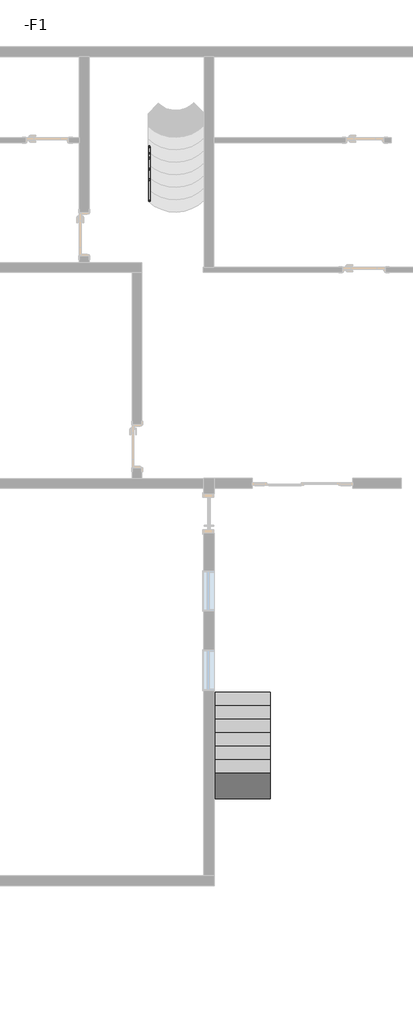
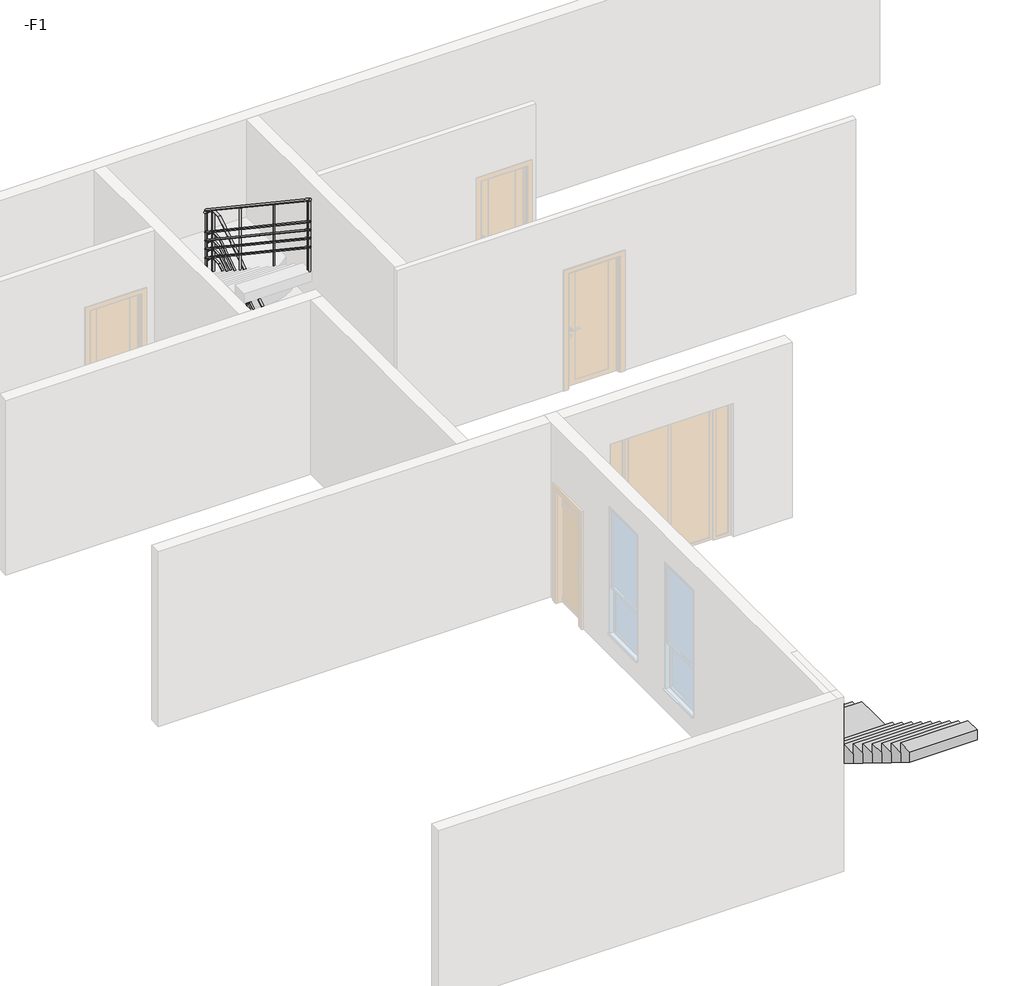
# One storey, part 2 of 3: 1 railing, 1 stair flight.
"""IFC4 building model written with IfcOpenShell, lengths in millimetres."""

from ifc_helpers import new_model, si_unit, point, frame, frame_2d, origin, place, context, project, spatial, circle_curve, ellipse_curve, trimmed, segment, composite_curve, outline, extrude, faceted_brep, element, save
from ifc_brep_helpers import plane_surface, cylinder_surface, advanced_brep

model = new_model("IFC4")

# Units and contexts
model_context = context("Model", 3, world=origin())
ifc_project = project(units=[si_unit("LENGTHUNIT", "METRE", prefix="MILLI")], contexts=[model_context])

# Site, building, storey
site = spatial("IfcSite", under=ifc_project)
building = spatial("IfcBuilding", under=site)
storey = spatial("IfcBuildingStorey", under=building, Name="-F1", Elevation=-3300.0)

# Railing
placement = place(None, origin())
element("IfcRailing", 1, ObjectType="900mm 圆管", at=placement, inside=storey, context=model_context, shape_type="SolidModel", body=[
    advanced_brep(
    [(-11180.5782681, -2651.0286905, -2000.3677801), (-11220.5782681, -2651.0286905, -2000.3677801), (-11180.5782681, -824.9629832, -780.5263158), (-11220.5782681, -824.9629832, -780.5263158), (-11180.5782681, -605.6286905, -780.5263158), (-11220.5782681, -645.6286905, -780.5263158), (-11339.1184451, -605.6286905, -780.5263158), (-11305.857165, -645.6286905, -780.5263158)],
    [
        (0, 1, ellipse_curve(frame((-11200.5782681, -2651.0286905, -2000.3677801), z_axis=(0.0, -1.0, 0.0), x_axis=(0.0, 0.0, -1.0)), 24.0519907, 20.0)),
        (1, 0, ellipse_curve(frame((-11200.5782681, -2651.0286905, -2000.3677801), z_axis=(0.0, -1.0, 0.0), x_axis=(0.0, 0.0, -1.0)), 24.0519907, 20.0)),
        (0, 2),
        (2, 3, ellipse_curve(frame((-11200.5782681, -824.9629832, -780.5263158), z_axis=(0.0, -0.9569566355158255, -0.29023093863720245), x_axis=(0.0, 0.29023093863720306, -0.9569566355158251)), 20.8995886, 20.0)),
        (3, 1),
        (3, 2, ellipse_curve(frame((-11200.5782681, -824.9629832, -780.5263158), z_axis=(0.0, -0.9569566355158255, -0.29023093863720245), x_axis=(0.0, 0.29023093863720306, -0.9569566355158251)), 20.8995886, 20.0)),
        (2, 4),
        (4, 5, ellipse_curve(frame((-11200.5782681, -625.6286905, -780.5263158), z_axis=(0.7071067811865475, -0.7071067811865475, 0.0), x_axis=(-0.7071067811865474, -0.7071067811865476, 0.0)), 28.2842712, 20.0)),
        (5, 3),
        (5, 4, ellipse_curve(frame((-11200.5782681, -625.6286905, -780.5263158), z_axis=(0.7071067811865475, -0.7071067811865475, 0.0), x_axis=(-0.7071067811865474, -0.7071067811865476, 0.0)), 28.2842712, 20.0)),
        (6, 7, ellipse_curve(frame((-11322.487805, -625.6286905, -780.5263158), z_axis=(-0.7071067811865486, -0.5879819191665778, 0.3927814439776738), x_axis=(0.7071067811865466, -0.5879819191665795, 0.3927814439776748)), 28.2842712, 20.0)),
        (7, 6, ellipse_curve(frame((-11322.487805, -625.6286905, -780.5263158), z_axis=(-0.7071067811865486, -0.5879819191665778, 0.3927814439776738), x_axis=(0.7071067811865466, -0.5879819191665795, 0.3927814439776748)), 28.2842712, 20.0)),
        (4, 6),
        (7, 5),
    ],
    [
        plane_surface(frame((-11200.5782681, -2651.0286905, -1976.3157895), z_axis=(0.0, -1.0, 0.0), x_axis=(0.0, 0.0, 1.0))),
        cylinder_surface(frame((-11200.5782681, -2639.9191536, -1992.9464296), z_axis=(0.0, -0.831532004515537, -0.5554768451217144), x_axis=(-1.0, 0.0, 0.0)), 20.0),
        cylinder_surface(frame((-11200.5782681, -831.0286905, -780.5263158), z_axis=(0.0, -1.0, 0.0), x_axis=(-1.0, 0.0, 0.0)), 20.0),
        plane_surface(frame((-11311.3782681, -625.6286905, -760.5263158), z_axis=(-0.7071067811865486, -0.5879819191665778, 0.3927814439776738), x_axis=(0.7071067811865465, -0.5879819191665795, 0.392781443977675))),
        cylinder_surface(frame((-11200.5782681, -625.6286905, -780.5263158), z_axis=(1.0, 0.0, 0.0), x_axis=(0.0, -1.0, 0.0)), 20.0),
    ],
    [
        (0, [[1, 2]]),
        (1, [[-1, 3, 4, 5]]),
        (1, [[-2, -5, 6, -3]]),
        (2, [[-4, 7, 8, 9]]),
        (2, [[-6, -9, 10, -7]]),
        (3, [[11, 12]]),
        (4, [[-8, 13, -12, 14]]),
        (4, [[-10, -14, -11, -13]]),
    ],
),
    advanced_brep(
    [(-11331.3782681, -620.1075873, -751.7928086), (-11291.3782681, -653.3688674, -729.5737348), (-11331.3782681, -3691.0286905, 1299.6322199), (-11291.3782681, -3691.0286905, 1299.6322199)],
    [
        (0, 1, ellipse_curve(frame((-11311.3782681, -636.7382274, -740.6832717), z_axis=(0.7071067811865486, 0.5879819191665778, -0.3927814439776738), x_axis=(-0.7071067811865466, 0.5879819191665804, -0.3927814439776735)), 28.2842712, 20.0)),
        (1, 0, ellipse_curve(frame((-11311.3782681, -636.7382274, -740.6832717), z_axis=(0.7071067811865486, 0.5879819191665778, -0.3927814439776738), x_axis=(-0.7071067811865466, 0.5879819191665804, -0.3927814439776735)), 28.2842712, 20.0)),
        (2, 3, ellipse_curve(frame((-11311.3782681, -3691.0286905, 1299.6322199), z_axis=(0.0, -1.0, 0.0), x_axis=(0.0, 0.0, -1.0)), 24.0519907, 20.0)),
        (3, 2, ellipse_curve(frame((-11311.3782681, -3691.0286905, 1299.6322199), z_axis=(0.0, -1.0, 0.0), x_axis=(0.0, 0.0, -1.0)), 24.0519907, 20.0)),
        (0, 2),
        (3, 1),
    ],
    [
        plane_surface(frame((-11311.3782681, -625.6286905, -724.0526316), z_axis=(0.7071067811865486, 0.5879819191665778, -0.3927814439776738), x_axis=(0.7071067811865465, -0.5879819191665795, 0.392781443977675))),
        plane_surface(frame((-11311.3782681, -3691.0286905, 1323.6842105), z_axis=(0.0, -1.0, 0.0), x_axis=(0.0, 0.0, -1.0))),
        cylinder_surface(frame((-11311.3782681, -636.7382274, -740.6832717), z_axis=(0.0, 0.8315320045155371, -0.5554768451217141), x_axis=(1.0, 0.0, 0.0)), 20.0),
    ],
    [
        (0, [[1, 2]]),
        (1, [[3, 4]]),
        (2, [[-1, 5, -4, 6]]),
        (2, [[-2, -6, -3, -5]]),
    ],
),
    advanced_brep(
    [(-11185.5782681, -2651.0286905, -2394.3547825), (-11215.5782681, -2651.0286905, -2394.3547825), (-11185.5782681, -826.47941, -1175.5263158), (-11215.5782681, -826.47941, -1175.5263158), (-11185.5782681, -640.6286905, -1175.5263158), (-11215.5782681, -640.6286905, -1175.5263158)],
    [
        (0, 1, ellipse_curve(frame((-11200.5782681, -2651.0286905, -2394.3547825), z_axis=(0.0, -1.0, 0.0), x_axis=(0.0, 0.0, -1.0)), 18.038993, 15.0)),
        (1, 0, ellipse_curve(frame((-11200.5782681, -2651.0286905, -2394.3547825), z_axis=(0.0, -1.0, 0.0), x_axis=(0.0, 0.0, -1.0)), 18.038993, 15.0)),
        (0, 2),
        (2, 3, ellipse_curve(frame((-11200.5782681, -826.47941, -1175.5263158), z_axis=(0.0, -0.9569566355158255, -0.29023093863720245), x_axis=(0.0, 0.29023093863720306, -0.9569566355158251)), 15.6746915, 15.0)),
        (3, 1),
        (3, 2, ellipse_curve(frame((-11200.5782681, -826.47941, -1175.5263158), z_axis=(0.0, -0.9569566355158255, -0.29023093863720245), x_axis=(0.0, 0.29023093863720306, -0.9569566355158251)), 15.6746915, 15.0)),
        (4, 5, circle_curve(frame((-11200.5782681, -640.6286905, -1175.5263158), z_axis=(0.0, 1.0, 0.0), x_axis=(-1.0, 0.0, 0.0)), 15.0)),
        (5, 4, circle_curve(frame((-11200.5782681, -640.6286905, -1175.5263158), z_axis=(0.0, 1.0, 0.0), x_axis=(-1.0, 0.0, 0.0)), 15.0)),
        (2, 4),
        (5, 3),
    ],
    [
        plane_surface(frame((-11200.5782681, -2651.0286905, -2376.3157895), z_axis=(0.0, -1.0, 0.0), x_axis=(0.0, 0.0, 1.0))),
        cylinder_surface(frame((-11200.5782681, -2642.6965378, -2388.7887695), z_axis=(0.0, -0.831532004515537, -0.5554768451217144), x_axis=(-1.0, 0.0, 0.0)), 15.0),
        plane_surface(frame((-11200.5782681, -640.6286905, -1160.5263158), z_axis=(0.0, 1.0, 0.0), x_axis=(0.0, 0.0, 1.0))),
        cylinder_surface(frame((-11200.5782681, -831.0286905, -1175.5263158), z_axis=(0.0, -1.0, 0.0), x_axis=(-1.0, 0.0, 0.0)), 15.0),
    ],
    [
        (0, [[1, 2]]),
        (1, [[-1, 3, 4, 5]]),
        (1, [[-2, -5, 6, -3]]),
        (2, [[7, 8]]),
        (3, [[-4, 9, -8, 10]]),
        (3, [[-6, -10, -7, -9]]),
    ],
),
    advanced_brep(
    [(-11185.5782681, -610.6286905, -1175.5263158), (-11185.5782681, -640.6286905, -1175.5263158), (-11296.3782681, -610.6286905, -1175.5263158), (-11296.3782681, -640.6286905, -1175.5263158)],
    [
        (0, 1, circle_curve(frame((-11185.5782681, -625.6286905, -1175.5263158), z_axis=(1.0, 0.0, 0.0), x_axis=(0.0, -1.0, 0.0)), 15.0)),
        (1, 0, circle_curve(frame((-11185.5782681, -625.6286905, -1175.5263158), z_axis=(1.0, 0.0, 0.0), x_axis=(0.0, -1.0, 0.0)), 15.0)),
        (2, 3, circle_curve(frame((-11296.3782681, -625.6286905, -1175.5263158), z_axis=(-1.0, 0.0, 0.0), x_axis=(0.0, -1.0, 0.0)), 15.0)),
        (3, 2, circle_curve(frame((-11296.3782681, -625.6286905, -1175.5263158), z_axis=(-1.0, 0.0, 0.0), x_axis=(0.0, -1.0, 0.0)), 15.0)),
        (0, 2),
        (3, 1),
    ],
    [
        plane_surface(frame((-11185.5782681, -625.6286905, -1160.5263158), z_axis=(1.0, 0.0, 0.0), x_axis=(0.0, -1.0, 0.0))),
        plane_surface(frame((-11296.3782681, -625.6286905, -1160.5263158), z_axis=(-1.0, 0.0, 0.0), x_axis=(0.0, -1.0, 0.0))),
        cylinder_surface(frame((-11185.5782681, -625.6286905, -1175.5263158), z_axis=(1.0, 0.0, 0.0), x_axis=(0.0, -1.0, 0.0)), 15.0),
    ],
    [
        (0, [[1, 2]]),
        (1, [[3, 4]]),
        (2, [[-1, 5, -4, 6]]),
        (2, [[-2, -6, -3, -5]]),
    ],
),
    advanced_brep(
    [(-11326.3782681, -610.6286905, -1152.1118675), (-11296.3782681, -610.6286905, -1152.1118675), (-11326.3782681, -3691.0286905, 905.6452175), (-11296.3782681, -3691.0286905, 905.6452175)],
    [
        (0, 1, ellipse_curve(frame((-11311.3782681, -610.6286905, -1152.1118675), z_axis=(0.0, 1.0, 0.0), x_axis=(0.0, 0.0, -1.0)), 18.038993, 15.0)),
        (1, 0, ellipse_curve(frame((-11311.3782681, -610.6286905, -1152.1118675), z_axis=(0.0, 1.0, 0.0), x_axis=(0.0, 0.0, -1.0)), 18.038993, 15.0)),
        (2, 3, ellipse_curve(frame((-11311.3782681, -3691.0286905, 905.6452175), z_axis=(0.0, -1.0, 0.0), x_axis=(0.0, 0.0, -1.0)), 18.038993, 15.0)),
        (3, 2, ellipse_curve(frame((-11311.3782681, -3691.0286905, 905.6452175), z_axis=(0.0, -1.0, 0.0), x_axis=(0.0, 0.0, -1.0)), 18.038993, 15.0)),
        (0, 2),
        (3, 1),
    ],
    [
        plane_surface(frame((-11311.3782681, -610.6286905, -1134.0728745), z_axis=(0.0, 1.0, 0.0), x_axis=(0.0, 0.0, -1.0))),
        plane_surface(frame((-11311.3782681, -3691.0286905, 923.6842105), z_axis=(0.0, -1.0, 0.0), x_axis=(0.0, 0.0, -1.0))),
        cylinder_surface(frame((-11311.3782681, -618.9608431, -1146.5458546), z_axis=(0.0, 0.8315320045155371, -0.5554768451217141), x_axis=(1.0, 0.0, 0.0)), 15.0),
    ],
    [
        (0, [[1, 2]]),
        (1, [[3, 4]]),
        (2, [[-1, 5, -4, 6]]),
        (2, [[-2, -6, -3, -5]]),
    ],
),
    advanced_brep(
    [(-11185.5782681, -2651.0286905, -2544.3547825), (-11215.5782681, -2651.0286905, -2544.3547825), (-11185.5782681, -826.47941, -1325.5263158), (-11215.5782681, -826.47941, -1325.5263158), (-11185.5782681, -640.6286905, -1325.5263158), (-11215.5782681, -640.6286905, -1325.5263158)],
    [
        (0, 1, ellipse_curve(frame((-11200.5782681, -2651.0286905, -2544.3547825), z_axis=(0.0, -1.0, 0.0), x_axis=(0.0, 0.0, -1.0)), 18.038993, 15.0)),
        (1, 0, ellipse_curve(frame((-11200.5782681, -2651.0286905, -2544.3547825), z_axis=(0.0, -1.0, 0.0), x_axis=(0.0, 0.0, -1.0)), 18.038993, 15.0)),
        (0, 2),
        (2, 3, ellipse_curve(frame((-11200.5782681, -826.47941, -1325.5263158), z_axis=(0.0, -0.9569566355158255, -0.29023093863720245), x_axis=(0.0, 0.29023093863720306, -0.9569566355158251)), 15.6746915, 15.0)),
        (3, 1),
        (3, 2, ellipse_curve(frame((-11200.5782681, -826.47941, -1325.5263158), z_axis=(0.0, -0.9569566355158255, -0.29023093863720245), x_axis=(0.0, 0.29023093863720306, -0.9569566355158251)), 15.6746915, 15.0)),
        (4, 5, circle_curve(frame((-11200.5782681, -640.6286905, -1325.5263158), z_axis=(0.0, 1.0, 0.0), x_axis=(-1.0, 0.0, 0.0)), 15.0)),
        (5, 4, circle_curve(frame((-11200.5782681, -640.6286905, -1325.5263158), z_axis=(0.0, 1.0, 0.0), x_axis=(-1.0, 0.0, 0.0)), 15.0)),
        (2, 4),
        (5, 3),
    ],
    [
        plane_surface(frame((-11200.5782681, -2651.0286905, -2526.3157895), z_axis=(0.0, -1.0, 0.0), x_axis=(0.0, 0.0, 1.0))),
        cylinder_surface(frame((-11200.5782681, -2642.6965378, -2538.7887695), z_axis=(0.0, -0.831532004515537, -0.5554768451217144), x_axis=(-1.0, 0.0, 0.0)), 15.0),
        plane_surface(frame((-11200.5782681, -640.6286905, -1310.5263158), z_axis=(0.0, 1.0, 0.0), x_axis=(0.0, 0.0, 1.0))),
        cylinder_surface(frame((-11200.5782681, -831.0286905, -1325.5263158), z_axis=(0.0, -1.0, 0.0), x_axis=(-1.0, 0.0, 0.0)), 15.0),
    ],
    [
        (0, [[1, 2]]),
        (1, [[-1, 3, 4, 5]]),
        (1, [[-2, -5, 6, -3]]),
        (2, [[7, 8]]),
        (3, [[-4, 9, -8, 10]]),
        (3, [[-6, -10, -7, -9]]),
    ],
),
    advanced_brep(
    [(-11185.5782681, -610.6286905, -1325.5263158), (-11185.5782681, -640.6286905, -1325.5263158), (-11296.3782681, -610.6286905, -1325.5263158), (-11296.3782681, -640.6286905, -1325.5263158)],
    [
        (0, 1, circle_curve(frame((-11185.5782681, -625.6286905, -1325.5263158), z_axis=(1.0, 0.0, 0.0), x_axis=(0.0, -1.0, 0.0)), 15.0)),
        (1, 0, circle_curve(frame((-11185.5782681, -625.6286905, -1325.5263158), z_axis=(1.0, 0.0, 0.0), x_axis=(0.0, -1.0, 0.0)), 15.0)),
        (2, 3, circle_curve(frame((-11296.3782681, -625.6286905, -1325.5263158), z_axis=(-1.0, 0.0, 0.0), x_axis=(0.0, -1.0, 0.0)), 15.0)),
        (3, 2, circle_curve(frame((-11296.3782681, -625.6286905, -1325.5263158), z_axis=(-1.0, 0.0, 0.0), x_axis=(0.0, -1.0, 0.0)), 15.0)),
        (0, 2),
        (3, 1),
    ],
    [
        plane_surface(frame((-11185.5782681, -625.6286905, -1310.5263158), z_axis=(1.0, 0.0, 0.0), x_axis=(0.0, -1.0, 0.0))),
        plane_surface(frame((-11296.3782681, -625.6286905, -1310.5263158), z_axis=(-1.0, 0.0, 0.0), x_axis=(0.0, -1.0, 0.0))),
        cylinder_surface(frame((-11185.5782681, -625.6286905, -1325.5263158), z_axis=(1.0, 0.0, 0.0), x_axis=(0.0, -1.0, 0.0)), 15.0),
    ],
    [
        (0, [[1, 2]]),
        (1, [[3, 4]]),
        (2, [[-1, 5, -4, 6]]),
        (2, [[-2, -6, -3, -5]]),
    ],
),
    advanced_brep(
    [(-11326.3782681, -610.6286905, -1302.1118675), (-11296.3782681, -610.6286905, -1302.1118675), (-11326.3782681, -3691.0286905, 755.6452175), (-11296.3782681, -3691.0286905, 755.6452175)],
    [
        (0, 1, ellipse_curve(frame((-11311.3782681, -610.6286905, -1302.1118675), z_axis=(0.0, 1.0, 0.0), x_axis=(0.0, 0.0, -1.0)), 18.038993, 15.0)),
        (1, 0, ellipse_curve(frame((-11311.3782681, -610.6286905, -1302.1118675), z_axis=(0.0, 1.0, 0.0), x_axis=(0.0, 0.0, -1.0)), 18.038993, 15.0)),
        (2, 3, ellipse_curve(frame((-11311.3782681, -3691.0286905, 755.6452175), z_axis=(0.0, -1.0, 0.0), x_axis=(0.0, 0.0, -1.0)), 18.038993, 15.0)),
        (3, 2, ellipse_curve(frame((-11311.3782681, -3691.0286905, 755.6452175), z_axis=(0.0, -1.0, 0.0), x_axis=(0.0, 0.0, -1.0)), 18.038993, 15.0)),
        (0, 2),
        (3, 1),
    ],
    [
        plane_surface(frame((-11311.3782681, -610.6286905, -1284.0728745), z_axis=(0.0, 1.0, 0.0), x_axis=(0.0, 0.0, -1.0))),
        plane_surface(frame((-11311.3782681, -3691.0286905, 773.6842105), z_axis=(0.0, -1.0, 0.0), x_axis=(0.0, 0.0, -1.0))),
        cylinder_surface(frame((-11311.3782681, -618.9608431, -1296.5458546), z_axis=(0.0, 0.8315320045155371, -0.5554768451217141), x_axis=(1.0, 0.0, 0.0)), 15.0),
    ],
    [
        (0, [[1, 2]]),
        (1, [[3, 4]]),
        (2, [[-1, 5, -4, 6]]),
        (2, [[-2, -6, -3, -5]]),
    ],
),
    advanced_brep(
    [(-11185.5782681, -2651.0286905, -2694.3547825), (-11215.5782681, -2651.0286905, -2694.3547825), (-11185.5782681, -826.47941, -1475.5263158), (-11215.5782681, -826.47941, -1475.5263158), (-11185.5782681, -640.6286905, -1475.5263158), (-11215.5782681, -640.6286905, -1475.5263158)],
    [
        (0, 1, ellipse_curve(frame((-11200.5782681, -2651.0286905, -2694.3547825), z_axis=(0.0, -1.0, 0.0), x_axis=(0.0, 0.0, -1.0)), 18.038993, 15.0)),
        (1, 0, ellipse_curve(frame((-11200.5782681, -2651.0286905, -2694.3547825), z_axis=(0.0, -1.0, 0.0), x_axis=(0.0, 0.0, -1.0)), 18.038993, 15.0)),
        (0, 2),
        (2, 3, ellipse_curve(frame((-11200.5782681, -826.47941, -1475.5263158), z_axis=(0.0, -0.9569566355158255, -0.29023093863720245), x_axis=(0.0, 0.29023093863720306, -0.9569566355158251)), 15.6746915, 15.0)),
        (3, 1),
        (3, 2, ellipse_curve(frame((-11200.5782681, -826.47941, -1475.5263158), z_axis=(0.0, -0.9569566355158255, -0.29023093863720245), x_axis=(0.0, 0.29023093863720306, -0.9569566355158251)), 15.6746915, 15.0)),
        (4, 5, circle_curve(frame((-11200.5782681, -640.6286905, -1475.5263158), z_axis=(0.0, 1.0, 0.0), x_axis=(-1.0, 0.0, 0.0)), 15.0)),
        (5, 4, circle_curve(frame((-11200.5782681, -640.6286905, -1475.5263158), z_axis=(0.0, 1.0, 0.0), x_axis=(-1.0, 0.0, 0.0)), 15.0)),
        (2, 4),
        (5, 3),
    ],
    [
        plane_surface(frame((-11200.5782681, -2651.0286905, -2676.3157895), z_axis=(0.0, -1.0, 0.0), x_axis=(0.0, 0.0, 1.0))),
        cylinder_surface(frame((-11200.5782681, -2642.6965378, -2688.7887695), z_axis=(0.0, -0.831532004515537, -0.5554768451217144), x_axis=(-1.0, 0.0, 0.0)), 15.0),
        plane_surface(frame((-11200.5782681, -640.6286905, -1460.5263158), z_axis=(0.0, 1.0, 0.0), x_axis=(0.0, 0.0, 1.0))),
        cylinder_surface(frame((-11200.5782681, -831.0286905, -1475.5263158), z_axis=(0.0, -1.0, 0.0), x_axis=(-1.0, 0.0, 0.0)), 15.0),
    ],
    [
        (0, [[1, 2]]),
        (1, [[-1, 3, 4, 5]]),
        (1, [[-2, -5, 6, -3]]),
        (2, [[7, 8]]),
        (3, [[-4, 9, -8, 10]]),
        (3, [[-6, -10, -7, -9]]),
    ],
),
    advanced_brep(
    [(-11185.5782681, -610.6286905, -1475.5263158), (-11185.5782681, -640.6286905, -1475.5263158), (-11296.3782681, -610.6286905, -1475.5263158), (-11296.3782681, -640.6286905, -1475.5263158)],
    [
        (0, 1, circle_curve(frame((-11185.5782681, -625.6286905, -1475.5263158), z_axis=(1.0, 0.0, 0.0), x_axis=(0.0, -1.0, 0.0)), 15.0)),
        (1, 0, circle_curve(frame((-11185.5782681, -625.6286905, -1475.5263158), z_axis=(1.0, 0.0, 0.0), x_axis=(0.0, -1.0, 0.0)), 15.0)),
        (2, 3, circle_curve(frame((-11296.3782681, -625.6286905, -1475.5263158), z_axis=(-1.0, 0.0, 0.0), x_axis=(0.0, -1.0, 0.0)), 15.0)),
        (3, 2, circle_curve(frame((-11296.3782681, -625.6286905, -1475.5263158), z_axis=(-1.0, 0.0, 0.0), x_axis=(0.0, -1.0, 0.0)), 15.0)),
        (0, 2),
        (3, 1),
    ],
    [
        plane_surface(frame((-11185.5782681, -625.6286905, -1460.5263158), z_axis=(1.0, 0.0, 0.0), x_axis=(0.0, -1.0, 0.0))),
        plane_surface(frame((-11296.3782681, -625.6286905, -1460.5263158), z_axis=(-1.0, 0.0, 0.0), x_axis=(0.0, -1.0, 0.0))),
        cylinder_surface(frame((-11185.5782681, -625.6286905, -1475.5263158), z_axis=(1.0, 0.0, 0.0), x_axis=(0.0, -1.0, 0.0)), 15.0),
    ],
    [
        (0, [[1, 2]]),
        (1, [[3, 4]]),
        (2, [[-1, 5, -4, 6]]),
        (2, [[-2, -6, -3, -5]]),
    ],
),
    advanced_brep(
    [(-11326.3782681, -610.6286905, -1452.1118675), (-11296.3782681, -610.6286905, -1452.1118675), (-11326.3782681, -3691.0286905, 605.6452175), (-11296.3782681, -3691.0286905, 605.6452175)],
    [
        (0, 1, ellipse_curve(frame((-11311.3782681, -610.6286905, -1452.1118675), z_axis=(0.0, 1.0, 0.0), x_axis=(0.0, 0.0, -1.0)), 18.038993, 15.0)),
        (1, 0, ellipse_curve(frame((-11311.3782681, -610.6286905, -1452.1118675), z_axis=(0.0, 1.0, 0.0), x_axis=(0.0, 0.0, -1.0)), 18.038993, 15.0)),
        (2, 3, ellipse_curve(frame((-11311.3782681, -3691.0286905, 605.6452175), z_axis=(0.0, -1.0, 0.0), x_axis=(0.0, 0.0, -1.0)), 18.038993, 15.0)),
        (3, 2, ellipse_curve(frame((-11311.3782681, -3691.0286905, 605.6452175), z_axis=(0.0, -1.0, 0.0), x_axis=(0.0, 0.0, -1.0)), 18.038993, 15.0)),
        (0, 2),
        (3, 1),
    ],
    [
        plane_surface(frame((-11311.3782681, -610.6286905, -1434.0728745), z_axis=(0.0, 1.0, 0.0), x_axis=(0.0, 0.0, -1.0))),
        plane_surface(frame((-11311.3782681, -3691.0286905, 623.6842105), z_axis=(0.0, -1.0, 0.0), x_axis=(0.0, 0.0, -1.0))),
        cylinder_surface(frame((-11311.3782681, -618.9608431, -1446.5458546), z_axis=(0.0, 0.8315320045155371, -0.5554768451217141), x_axis=(1.0, 0.0, 0.0)), 15.0),
    ],
    [
        (0, [[1, 2]]),
        (1, [[3, 4]]),
        (2, [[-1, 5, -4, 6]]),
        (2, [[-2, -6, -3, -5]]),
    ],
),
    advanced_brep(
    [(-11185.5782681, -2651.0286905, -2856.3547825), (-11215.5782681, -2651.0286905, -2856.3547825), (-11185.5782681, -826.47941, -1637.5263158), (-11215.5782681, -826.47941, -1637.5263158), (-11185.5782681, -640.6286905, -1637.5263158), (-11215.5782681, -640.6286905, -1637.5263158)],
    [
        (0, 1, ellipse_curve(frame((-11200.5782681, -2651.0286905, -2856.3547825), z_axis=(0.0, -1.0, 0.0), x_axis=(0.0, 0.0, -1.0)), 18.038993, 15.0)),
        (1, 0, ellipse_curve(frame((-11200.5782681, -2651.0286905, -2856.3547825), z_axis=(0.0, -1.0, 0.0), x_axis=(0.0, 0.0, -1.0)), 18.038993, 15.0)),
        (0, 2),
        (2, 3, ellipse_curve(frame((-11200.5782681, -826.47941, -1637.5263158), z_axis=(0.0, -0.9569566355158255, -0.29023093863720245), x_axis=(0.0, 0.29023093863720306, -0.9569566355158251)), 15.6746915, 15.0)),
        (3, 1),
        (3, 2, ellipse_curve(frame((-11200.5782681, -826.47941, -1637.5263158), z_axis=(0.0, -0.9569566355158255, -0.29023093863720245), x_axis=(0.0, 0.29023093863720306, -0.9569566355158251)), 15.6746915, 15.0)),
        (4, 5, circle_curve(frame((-11200.5782681, -640.6286905, -1637.5263158), z_axis=(0.0, 1.0, 0.0), x_axis=(-1.0, 0.0, 0.0)), 15.0)),
        (5, 4, circle_curve(frame((-11200.5782681, -640.6286905, -1637.5263158), z_axis=(0.0, 1.0, 0.0), x_axis=(-1.0, 0.0, 0.0)), 15.0)),
        (2, 4),
        (5, 3),
    ],
    [
        plane_surface(frame((-11200.5782681, -2651.0286905, -2838.3157895), z_axis=(0.0, -1.0, 0.0), x_axis=(0.0, 0.0, 1.0))),
        cylinder_surface(frame((-11200.5782681, -2642.6965378, -2850.7887695), z_axis=(0.0, -0.831532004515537, -0.5554768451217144), x_axis=(-1.0, 0.0, 0.0)), 15.0),
        plane_surface(frame((-11200.5782681, -640.6286905, -1622.5263158), z_axis=(0.0, 1.0, 0.0), x_axis=(0.0, 0.0, 1.0))),
        cylinder_surface(frame((-11200.5782681, -831.0286905, -1637.5263158), z_axis=(0.0, -1.0, 0.0), x_axis=(-1.0, 0.0, 0.0)), 15.0),
    ],
    [
        (0, [[1, 2]]),
        (1, [[-1, 3, 4, 5]]),
        (1, [[-2, -5, 6, -3]]),
        (2, [[7, 8]]),
        (3, [[-4, 9, -8, 10]]),
        (3, [[-6, -10, -7, -9]]),
    ],
),
    advanced_brep(
    [(-11185.5782681, -610.6286905, -1637.5263158), (-11185.5782681, -640.6286905, -1637.5263158), (-11296.3782681, -610.6286905, -1637.5263158), (-11296.3782681, -640.6286905, -1637.5263158)],
    [
        (0, 1, circle_curve(frame((-11185.5782681, -625.6286905, -1637.5263158), z_axis=(1.0, 0.0, 0.0), x_axis=(0.0, -1.0, 0.0)), 15.0)),
        (1, 0, circle_curve(frame((-11185.5782681, -625.6286905, -1637.5263158), z_axis=(1.0, 0.0, 0.0), x_axis=(0.0, -1.0, 0.0)), 15.0)),
        (2, 3, circle_curve(frame((-11296.3782681, -625.6286905, -1637.5263158), z_axis=(-1.0, 0.0, 0.0), x_axis=(0.0, -1.0, 0.0)), 15.0)),
        (3, 2, circle_curve(frame((-11296.3782681, -625.6286905, -1637.5263158), z_axis=(-1.0, 0.0, 0.0), x_axis=(0.0, -1.0, 0.0)), 15.0)),
        (0, 2),
        (3, 1),
    ],
    [
        plane_surface(frame((-11185.5782681, -625.6286905, -1622.5263158), z_axis=(1.0, 0.0, 0.0), x_axis=(0.0, -1.0, 0.0))),
        plane_surface(frame((-11296.3782681, -625.6286905, -1622.5263158), z_axis=(-1.0, 0.0, 0.0), x_axis=(0.0, -1.0, 0.0))),
        cylinder_surface(frame((-11185.5782681, -625.6286905, -1637.5263158), z_axis=(1.0, 0.0, 0.0), x_axis=(0.0, -1.0, 0.0)), 15.0),
    ],
    [
        (0, [[1, 2]]),
        (1, [[3, 4]]),
        (2, [[-1, 5, -4, 6]]),
        (2, [[-2, -6, -3, -5]]),
    ],
),
    advanced_brep(
    [(-11326.3782681, -610.6286905, -1614.1118675), (-11296.3782681, -610.6286905, -1614.1118675), (-11326.3782681, -3691.0286905, 443.6452175), (-11296.3782681, -3691.0286905, 443.6452175)],
    [
        (0, 1, ellipse_curve(frame((-11311.3782681, -610.6286905, -1614.1118675), z_axis=(0.0, 1.0, 0.0), x_axis=(0.0, 0.0, -1.0)), 18.038993, 15.0)),
        (1, 0, ellipse_curve(frame((-11311.3782681, -610.6286905, -1614.1118675), z_axis=(0.0, 1.0, 0.0), x_axis=(0.0, 0.0, -1.0)), 18.038993, 15.0)),
        (2, 3, ellipse_curve(frame((-11311.3782681, -3691.0286905, 443.6452175), z_axis=(0.0, -1.0, 0.0), x_axis=(0.0, 0.0, -1.0)), 18.038993, 15.0)),
        (3, 2, ellipse_curve(frame((-11311.3782681, -3691.0286905, 443.6452175), z_axis=(0.0, -1.0, 0.0), x_axis=(0.0, 0.0, -1.0)), 18.038993, 15.0)),
        (0, 2),
        (3, 1),
    ],
    [
        plane_surface(frame((-11311.3782681, -610.6286905, -1596.0728745), z_axis=(0.0, 1.0, 0.0), x_axis=(0.0, 0.0, -1.0))),
        plane_surface(frame((-11311.3782681, -3691.0286905, 461.6842105), z_axis=(0.0, -1.0, 0.0), x_axis=(0.0, 0.0, -1.0))),
        cylinder_surface(frame((-11311.3782681, -618.9608431, -1608.5458546), z_axis=(0.0, 0.8315320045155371, -0.5554768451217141), x_axis=(1.0, 0.0, 0.0)), 15.0),
    ],
    [
        (0, [[1, 2]]),
        (1, [[3, 4]]),
        (2, [[-1, 5, -4, 6]]),
        (2, [[-2, -6, -3, -5]]),
    ],
),
    advanced_brep(
    [(-11298.8782681, -3625.6286905, 1231.8919701), (-11323.8782681, -3625.6286905, 1231.8919701), (-11323.8782681, -3625.6286905, 0.0), (-11298.8782681, -3625.6286905, 0.0)],
    [
        (0, 1, ellipse_curve(frame((-11311.3782681, -3625.6286905, 1231.8919701), z_axis=(0.0, -0.5554768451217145, -0.831532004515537), x_axis=(0.0, -0.8315320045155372, 0.5554768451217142)), 15.0324942, 12.5)),
        (1, 2),
        (2, 3, circle_curve(frame((-11311.3782681, -3625.6286905, 0.0), z_axis=(0.0, 0.0, 1.0), x_axis=(-1.0, 0.0, 0.0)), 12.5)),
        (3, 0),
        (3, 2, circle_curve(frame((-11311.3782681, -3625.6286905, 0.0), z_axis=(0.0, 0.0, 1.0), x_axis=(-1.0, 0.0, 0.0)), 12.5)),
        (1, 0, ellipse_curve(frame((-11311.3782681, -3625.6286905, 1231.8919701), z_axis=(0.0, -0.5554768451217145, -0.831532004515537), x_axis=(0.0, -0.8315320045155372, 0.5554768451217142)), 15.0324942, 12.5)),
    ],
    [
        cylinder_surface(frame((-11311.3782681, -3625.6286905, -100.0), z_axis=(0.0, 0.0, 1.0), x_axis=(-1.0, 0.0, 0.0)), 12.5),
        plane_surface(frame((-11336.3782681, -3650.6286905, 1248.592375), z_axis=(0.0, 0.5554768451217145, 0.831532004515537), x_axis=(1.0, 0.0, 0.0))),
        plane_surface(frame((-11336.3782681, -3600.6286905, 0.0), z_axis=(0.0, 0.0, -1.0), x_axis=(1.0, 0.0, 0.0))),
    ],
    [
        (0, [[1, 2, 3, 4]]),
        (0, [[5, -2, 6, -4]]),
        (1, [[-6, -1]]),
        (2, [[-5, -3]]),
    ],
),
    advanced_brep(
    [(-11298.8782681, -2625.6286905, 563.8757758), (-11323.8782681, -2625.6286905, 563.8757758), (-11323.8782681, -2625.6286905, -694.7368421), (-11298.8782681, -2625.6286905, -694.7368421)],
    [
        (0, 1, ellipse_curve(frame((-11311.3782681, -2625.6286905, 563.8757758), z_axis=(0.0, -0.555476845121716, -0.8315320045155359), x_axis=(0.0, -0.8315320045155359, 0.5554768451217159)), 15.0324942, 12.5)),
        (1, 2),
        (2, 3, circle_curve(frame((-11311.3782681, -2625.6286905, -694.7368421), z_axis=(0.0, 0.0, 1.0), x_axis=(-1.0, 0.0, 0.0)), 12.5)),
        (3, 0),
        (3, 2, circle_curve(frame((-11311.3782681, -2625.6286905, -694.7368421), z_axis=(0.0, 0.0, 1.0), x_axis=(-1.0, 0.0, 0.0)), 12.5)),
        (1, 0, ellipse_curve(frame((-11311.3782681, -2625.6286905, 563.8757758), z_axis=(0.0, -0.555476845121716, -0.8315320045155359), x_axis=(0.0, -0.8315320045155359, 0.5554768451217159)), 15.0324942, 12.5)),
    ],
    [
        cylinder_surface(frame((-11311.3782681, -2625.6286905, -794.7368421), z_axis=(0.0, 0.0, 1.0), x_axis=(-1.0, 0.0, 0.0)), 12.5),
        plane_surface(frame((-11336.3782681, -2650.6286905, 580.5761806), z_axis=(0.0, 0.555476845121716, 0.8315320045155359), x_axis=(1.0, 0.0, 0.0))),
        plane_surface(frame((-11336.3782681, -2600.6286905, -694.7368421), z_axis=(0.0, 0.0, -1.0), x_axis=(1.0, 0.0, 0.0))),
    ],
    [
        (0, [[1, 2, 3, 4]]),
        (0, [[5, -2, 6, -4]]),
        (1, [[-6, -1]]),
        (2, [[-5, -3]]),
    ],
),
    advanced_brep(
    [(-11298.8782681, -1625.6286905, -104.1404186), (-11323.8782681, -1625.6286905, -104.1404186), (-11323.8782681, -1625.6286905, -1215.7894737), (-11298.8782681, -1625.6286905, -1215.7894737)],
    [
        (0, 1, ellipse_curve(frame((-11311.3782681, -1625.6286905, -104.1404186), z_axis=(0.0, -0.5554768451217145, -0.831532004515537), x_axis=(0.0, -0.8315320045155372, 0.5554768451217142)), 15.0324942, 12.5)),
        (1, 2),
        (2, 3, circle_curve(frame((-11311.3782681, -1625.6286905, -1215.7894737), z_axis=(0.0, 0.0, 1.0), x_axis=(-1.0, 0.0, 0.0)), 12.5)),
        (3, 0),
        (3, 2, circle_curve(frame((-11311.3782681, -1625.6286905, -1215.7894737), z_axis=(0.0, 0.0, 1.0), x_axis=(-1.0, 0.0, 0.0)), 12.5)),
        (1, 0, ellipse_curve(frame((-11311.3782681, -1625.6286905, -104.1404186), z_axis=(0.0, -0.5554768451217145, -0.831532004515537), x_axis=(0.0, -0.8315320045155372, 0.5554768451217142)), 15.0324942, 12.5)),
    ],
    [
        cylinder_surface(frame((-11311.3782681, -1625.6286905, -1315.7894737), z_axis=(0.0, 0.0, 1.0), x_axis=(-1.0, 0.0, 0.0)), 12.5),
        plane_surface(frame((-11336.3782681, -1650.6286905, -87.4400137), z_axis=(0.0, 0.5554768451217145, 0.831532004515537), x_axis=(1.0, 0.0, 0.0))),
        plane_surface(frame((-11336.3782681, -1600.6286905, -1215.7894737), z_axis=(0.0, 0.0, -1.0), x_axis=(1.0, 0.0, 0.0))),
    ],
    [
        (0, [[1, 2, 3, 4]]),
        (0, [[5, -2, 6, -4]]),
        (1, [[-6, -1]]),
        (2, [[-5, -3]]),
    ],
),
    extrude(outline(composite_curve([segment(trimmed(circle_curve(frame_2d((-11200.5782681, -651.0286905)), 12.5), [point((-11188.0782681, -651.0286905))], [point((-11213.0782681, -651.0286905))], False, "CARTESIAN"), True, "CONTINUOUS"), segment(trimmed(circle_curve(frame_2d((-11200.5782681, -651.0286905)), 12.5), [point((-11213.0782681, -651.0286905))], [point((-11188.0782681, -651.0286905))], False, "CARTESIAN"), True, "CONTINUOUS")], self_intersect=False)), frame((0.0, 0.0, -1910.5263158), z_axis=(0.0, 0.0, 1.0), x_axis=(1.0, 0.0, 0.0)), (0.0, 0.0, 1.0), 1110.0),
    advanced_brep(
    [(-11213.0782681, -1651.0286905, -1356.4035764), (-11188.0782681, -1651.0286905, -1356.4035764), (-11188.0782681, -1651.0286905, -2605.2631579), (-11213.0782681, -1651.0286905, -2605.2631579)],
    [
        (0, 1, ellipse_curve(frame((-11200.5782681, -1651.0286905, -1356.4035764), z_axis=(0.0, 0.555476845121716, -0.8315320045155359), x_axis=(0.0, 0.8315320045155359, 0.5554768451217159)), 15.0324942, 12.5)),
        (1, 2),
        (2, 3, circle_curve(frame((-11200.5782681, -1651.0286905, -2605.2631579), z_axis=(0.0, 0.0, 1.0), x_axis=(1.0, 0.0, 0.0)), 12.5)),
        (3, 0),
        (3, 2, circle_curve(frame((-11200.5782681, -1651.0286905, -2605.2631579), z_axis=(0.0, 0.0, 1.0), x_axis=(1.0, 0.0, 0.0)), 12.5)),
        (1, 0, ellipse_curve(frame((-11200.5782681, -1651.0286905, -1356.4035764), z_axis=(0.0, 0.555476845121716, -0.8315320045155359), x_axis=(0.0, 0.8315320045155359, 0.5554768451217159)), 15.0324942, 12.5)),
    ],
    [
        cylinder_surface(frame((-11200.5782681, -1651.0286905, -2705.2631579), z_axis=(0.0, 0.0, 1.0), x_axis=(1.0, 0.0, 0.0)), 12.5),
        plane_surface(frame((-11175.5782681, -1626.0286905, -1339.7031716), z_axis=(0.0, -0.555476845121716, 0.8315320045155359), x_axis=(-1.0, 0.0, 0.0))),
        plane_surface(frame((-11175.5782681, -1676.0286905, -2605.2631579), z_axis=(0.0, 0.0, -1.0), x_axis=(-1.0, 0.0, 0.0))),
    ],
    [
        (0, [[1, 2, 3, 4]]),
        (0, [[5, -2, 6, -4]]),
        (1, [[-6, -1]]),
        (2, [[-5, -3]]),
    ],
),
    extrude(outline(composite_curve([segment(trimmed(circle_curve(frame_2d((-11311.3782681, -625.6286905)), 12.5), [point((-11311.3782681, -613.1286905))], [point((-11311.3782681, -638.1286905))], False, "CARTESIAN"), True, "CONTINUOUS"), segment(trimmed(circle_curve(frame_2d((-11311.3782681, -625.6286905)), 12.5), [point((-11311.3782681, -638.1286905))], [point((-11311.3782681, -613.1286905))], False, "CARTESIAN"), True, "CONTINUOUS")], self_intersect=False)), frame((0.0, 0.0, -1910.5263158), z_axis=(0.0, 0.0, 1.0), x_axis=(1.0, 0.0, 0.0)), (0.0, 0.0, 1.0), 1110.0),
    extrude(outline(composite_curve([segment(trimmed(circle_curve(frame_2d((-11200.5782681, -625.6286905)), 12.5), [point((-11188.0782681, -625.6286905))], [point((-11213.0782681, -625.6286905))], False, "CARTESIAN"), True, "CONTINUOUS"), segment(trimmed(circle_curve(frame_2d((-11200.5782681, -625.6286905)), 12.5), [point((-11213.0782681, -625.6286905))], [point((-11188.0782681, -625.6286905))], False, "CARTESIAN"), True, "CONTINUOUS")], self_intersect=False)), frame((0.0, 0.0, -1910.5263158), z_axis=(0.0, 0.0, 1.0), x_axis=(1.0, 0.0, 0.0)), (0.0, 0.0, 1.0), 1110.0),
    advanced_brep(
    [(-11298.8782681, -3678.5286905, 1267.2300268), (-11323.8782681, -3678.5286905, 1267.2300268), (-11323.8782681, -3678.5286905, 0.0), (-11298.8782681, -3678.5286905, 0.0)],
    [
        (0, 1, ellipse_curve(frame((-11311.3782681, -3678.5286905, 1267.2300268), z_axis=(0.0, -0.555476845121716, -0.8315320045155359), x_axis=(0.0, -0.8315320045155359, 0.5554768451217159)), 15.0324942, 12.5)),
        (1, 2),
        (2, 3, circle_curve(frame((-11311.3782681, -3678.5286905, 0.0), z_axis=(0.0, 0.0, 1.0), x_axis=(-1.0, 0.0, 0.0)), 12.5)),
        (3, 0),
        (3, 2, circle_curve(frame((-11311.3782681, -3678.5286905, 0.0), z_axis=(0.0, 0.0, 1.0), x_axis=(-1.0, 0.0, 0.0)), 12.5)),
        (1, 0, ellipse_curve(frame((-11311.3782681, -3678.5286905, 1267.2300268), z_axis=(0.0, -0.555476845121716, -0.8315320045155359), x_axis=(0.0, -0.8315320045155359, 0.5554768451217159)), 15.0324942, 12.5)),
    ],
    [
        cylinder_surface(frame((-11311.3782681, -3678.5286905, -100.0), z_axis=(0.0, 0.0, 1.0), x_axis=(-1.0, 0.0, 0.0)), 12.5),
        plane_surface(frame((-11336.3782681, -3703.5286905, 1283.9304317), z_axis=(0.0, 0.555476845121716, 0.8315320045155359), x_axis=(1.0, 0.0, 0.0))),
        plane_surface(frame((-11336.3782681, -3653.5286905, 0.0), z_axis=(0.0, 0.0, -1.0), x_axis=(1.0, 0.0, 0.0))),
    ],
    [
        (0, [[1, 2, 3, 4]]),
        (0, [[5, -2, 6, -4]]),
        (1, [[-6, -1]]),
        (2, [[-5, -3]]),
    ],
),
    advanced_brep(
    [(-11213.0782681, -2638.5286905, -2016.0695683), (-11188.0782681, -2638.5286905, -2016.0695683), (-11188.0782681, -2638.5286905, -3126.3157895), (-11213.0782681, -2638.5286905, -3126.3157895)],
    [
        (0, 1, ellipse_curve(frame((-11200.5782681, -2638.5286905, -2016.0695683), z_axis=(0.0, 0.5554768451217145, -0.831532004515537), x_axis=(0.0, 0.8315320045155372, 0.5554768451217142)), 15.0324942, 12.5)),
        (1, 2),
        (2, 3, circle_curve(frame((-11200.5782681, -2638.5286905, -3126.3157895), z_axis=(0.0, 0.0, 1.0), x_axis=(1.0, 0.0, 0.0)), 12.5)),
        (3, 0),
        (3, 2, circle_curve(frame((-11200.5782681, -2638.5286905, -3126.3157895), z_axis=(0.0, 0.0, 1.0), x_axis=(1.0, 0.0, 0.0)), 12.5)),
        (1, 0, ellipse_curve(frame((-11200.5782681, -2638.5286905, -2016.0695683), z_axis=(0.0, 0.5554768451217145, -0.831532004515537), x_axis=(0.0, 0.8315320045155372, 0.5554768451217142)), 15.0324942, 12.5)),
    ],
    [
        cylinder_surface(frame((-11200.5782681, -2638.5286905, -3226.3157895), z_axis=(0.0, 0.0, 1.0), x_axis=(1.0, 0.0, 0.0)), 12.5),
        plane_surface(frame((-11175.5782681, -2613.5286905, -1999.3691635), z_axis=(0.0, -0.5554768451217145, 0.831532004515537), x_axis=(-1.0, 0.0, 0.0))),
        plane_surface(frame((-11175.5782681, -2663.5286905, -3126.3157895), z_axis=(0.0, 0.0, -1.0), x_axis=(-1.0, 0.0, 0.0))),
    ],
    [
        (0, [[1, 2, 3, 4]]),
        (0, [[5, -2, 6, -4]]),
        (1, [[-6, -1]]),
        (2, [[-5, -3]]),
    ],
),
])

# Stair flight
element("IfcStairFlight", 2, ObjectType="150mm 结构深度", at=placement, inside=storey, context=model_context, shape_type="Brep", body=[
    faceted_brep([(-8675.9782681, -13171.0286905, -3126.3157895), (-8675.9782681, -12891.0286905, -3126.3157895), (-9825.9782681, -12891.0286905, -3126.3157895), (-9825.9782681, -13171.0286905, -3126.3157895), (-8675.9782681, -13171.0286905, -3300.0), (-8675.9782681, -12891.0286905, -3300.0), (-9825.9782681, -12891.0286905, -3300.0), (-9825.9782681, -13171.0286905, -3300.0), (-8675.9782681, -13451.0286905, -2952.6315789), (-8675.9782681, -13171.0286905, -2952.6315789), (-9825.9782681, -13171.0286905, -2952.6315789), (-9825.9782681, -13451.0286905, -2952.6315789), (-8675.9782681, -13451.0286905, -3129.1461478), (-8675.9782681, -13175.5915711, -3300.0), (-9825.9782681, -13175.5915711, -3300.0), (-9825.9782681, -13451.0286905, -3129.1461478), (-8675.9782681, -13731.0286905, -2778.9473684), (-8675.9782681, -13451.0286905, -2778.9473684), (-9825.9782681, -13451.0286905, -2778.9473684), (-9825.9782681, -13731.0286905, -2778.9473684), (-8675.9782681, -13731.0286905, -2955.4619373), (-9825.9782681, -13731.0286905, -2955.4619373), (-8675.9782681, -14011.0286905, -2605.2631579), (-8675.9782681, -13731.0286905, -2605.2631579), (-9825.9782681, -13731.0286905, -2605.2631579), (-9825.9782681, -14011.0286905, -2605.2631579), (-8675.9782681, -14011.0286905, -2781.7777267), (-9825.9782681, -14011.0286905, -2781.7777267), (-8675.9782681, -14291.0286905, -2431.5789474), (-8675.9782681, -14011.0286905, -2431.5789474), (-9825.9782681, -14011.0286905, -2431.5789474), (-9825.9782681, -14291.0286905, -2431.5789474), (-8675.9782681, -14291.0286905, -2608.0935162), (-9825.9782681, -14291.0286905, -2608.0935162), (-8675.9782681, -14571.0286905, -2257.8947368), (-8675.9782681, -14291.0286905, -2257.8947368), (-9825.9782681, -14291.0286905, -2257.8947368), (-9825.9782681, -14571.0286905, -2257.8947368), (-8675.9782681, -14571.0286905, -2434.4093057), (-9825.9782681, -14571.0286905, -2434.4093057), (-8675.9782681, -14851.0286905, -2084.2105263), (-8675.9782681, -14571.0286905, -2084.2105263), (-9825.9782681, -14571.0286905, -2084.2105263), (-9825.9782681, -14851.0286905, -2084.2105263), (-8675.9782681, -14851.0286905, -2260.7250952), (-9825.9782681, -14851.0286905, -2260.7250952), (-8675.9782681, -15131.0286905, -1910.5263158), (-8675.9782681, -14851.0286905, -1910.5263158), (-9825.9782681, -14851.0286905, -1910.5263158), (-9825.9782681, -15131.0286905, -1910.5263158), (-8675.9782681, -15131.0286905, -2087.0408846), (-9825.9782681, -15131.0286905, -2087.0408846), (-8675.9782681, -15411.0286905, -1736.8421053), (-8675.9782681, -15131.0286905, -1736.8421053), (-9825.9782681, -15131.0286905, -1736.8421053), (-9825.9782681, -15411.0286905, -1736.8421053), (-8675.9782681, -15411.0286905, -1913.3566741), (-9825.9782681, -15411.0286905, -1913.3566741), (-8675.9782681, -15411.0286905, -1563.1578947), (-9825.9782681, -15411.0286905, -1563.1578947), (-9825.9782681, -15733.7733893, -1563.1578947), (-9825.9782681, -16311.0286905, -1563.1578947), (-8675.9782681, -16311.0286905, -1563.1578947), (-8675.9782681, -15733.7733893, -1563.1578947), (-8675.9782681, -16311.0286905, -1713.1578947), (-8675.9782681, -15733.7733893, -1713.1578947), (-9825.9782681, -15733.7733893, -1713.1578947), (-9825.9782681, -16311.0286905, -1713.1578947), (-8675.9782681, -16311.0286905, -1389.4736842), (-9825.9782681, -16311.0286905, -1389.4736842), (-9825.9782681, -16353.7733893, -1389.4736842), (-9825.9782681, -16591.0286905, -1389.4736842), (-8675.9782681, -16591.0286905, -1389.4736842), (-8675.9782681, -16353.7733893, -1389.4736842), (-8675.9782681, -16591.0286905, -1565.9882531), (-8675.9782681, -16353.7733893, -1713.1578947), (-9825.9782681, -16353.7733893, -1713.1578947), (-9825.9782681, -16591.0286905, -1565.9882531), (-8675.9782681, -16871.0286905, -1215.7894737), (-8675.9782681, -16591.0286905, -1215.7894737), (-9825.9782681, -16591.0286905, -1215.7894737), (-9825.9782681, -16871.0286905, -1215.7894737), (-8675.9782681, -16871.0286905, -1392.3040425), (-9825.9782681, -16871.0286905, -1392.3040425), (-8675.9782681, -17151.0286905, -1042.1052632), (-8675.9782681, -16871.0286905, -1042.1052632), (-9825.9782681, -16871.0286905, -1042.1052632), (-9825.9782681, -17151.0286905, -1042.1052632), (-8675.9782681, -17151.0286905, -1218.619832), (-9825.9782681, -17151.0286905, -1218.619832), (-8675.9782681, -17431.0286905, -868.4210526), (-8675.9782681, -17151.0286905, -868.4210526), (-9825.9782681, -17151.0286905, -868.4210526), (-9825.9782681, -17431.0286905, -868.4210526), (-8675.9782681, -17431.0286905, -1044.9356215), (-9825.9782681, -17431.0286905, -1044.9356215), (-8675.9782681, -17711.0286905, -694.7368421), (-8675.9782681, -17431.0286905, -694.7368421), (-9825.9782681, -17431.0286905, -694.7368421), (-9825.9782681, -17711.0286905, -694.7368421), (-8675.9782681, -17711.0286905, -871.2514109), (-9825.9782681, -17711.0286905, -871.2514109), (-8675.9782681, -17991.0286905, -521.0526316), (-8675.9782681, -17711.0286905, -521.0526316), (-9825.9782681, -17711.0286905, -521.0526316), (-9825.9782681, -17991.0286905, -521.0526316), (-8675.9782681, -17991.0286905, -697.5672004), (-9825.9782681, -17991.0286905, -697.5672004), (-8675.9782681, -18271.0286905, -347.3684211), (-8675.9782681, -17991.0286905, -347.3684211), (-9825.9782681, -17991.0286905, -347.3684211), (-9825.9782681, -18271.0286905, -347.3684211), (-8675.9782681, -18271.0286905, -523.8829899), (-9825.9782681, -18271.0286905, -523.8829899), (-8675.9782681, -18551.0286905, -173.6842105), (-8675.9782681, -18271.0286905, -173.6842105), (-9825.9782681, -18271.0286905, -173.6842105), (-9825.9782681, -18551.0286905, -173.6842105), (-8675.9782681, -18551.0286905, -350.1987794), (-9825.9782681, -18551.0286905, -350.1987794), (-8675.9782681, -18831.0286905, 0.0), (-8675.9782681, -18551.0286905, 0.0), (-9825.9782681, -18551.0286905, 0.0), (-9825.9782681, -18831.0286905, 0.0), (-8675.9782681, -18831.0286905, -176.5145688), (-9825.9782681, -18831.0286905, -176.5145688)], [[[0, 1, 2, 3]], [[1, 0, 4, 5]], [[2, 1, 5, 6]], [[3, 2, 6, 7]], [[8, 9, 10, 11]], [[4, 0, 9, 8, 12, 13]], [[0, 3, 10, 9]], [[3, 7, 14, 15, 11, 10]], [[16, 17, 18, 19]], [[17, 16, 20, 12, 8]], [[8, 11, 18, 17]], [[19, 18, 11, 15, 21]], [[22, 23, 24, 25]], [[23, 22, 26, 20, 16]], [[16, 19, 24, 23]], [[25, 24, 19, 21, 27]], [[28, 29, 30, 31]], [[29, 28, 32, 26, 22]], [[22, 25, 30, 29]], [[31, 30, 25, 27, 33]], [[34, 35, 36, 37]], [[35, 34, 38, 32, 28]], [[28, 31, 36, 35]], [[37, 36, 31, 33, 39]], [[40, 41, 42, 43]], [[41, 40, 44, 38, 34]], [[34, 37, 42, 41]], [[43, 42, 37, 39, 45]], [[46, 47, 48, 49]], [[47, 46, 50, 44, 40]], [[40, 43, 48, 47]], [[49, 48, 43, 45, 51]], [[52, 53, 54, 55]], [[53, 52, 56, 50, 46]], [[46, 49, 54, 53]], [[55, 54, 49, 51, 57]], [[58, 59, 60, 61, 62, 63]], [[52, 58, 63, 62, 64, 65, 56]], [[52, 55, 59, 58]], [[59, 55, 57, 66, 67, 61, 60]], [[68, 69, 70, 71, 72, 73]], [[62, 68, 73, 72, 74, 75, 64]], [[62, 61, 69, 68]], [[69, 61, 67, 76, 77, 71, 70]], [[78, 79, 80, 81]], [[79, 78, 82, 74, 72]], [[72, 71, 80, 79]], [[81, 80, 71, 77, 83]], [[84, 85, 86, 87]], [[85, 84, 88, 82, 78]], [[78, 81, 86, 85]], [[87, 86, 81, 83, 89]], [[90, 91, 92, 93]], [[91, 90, 94, 88, 84]], [[84, 87, 92, 91]], [[93, 92, 87, 89, 95]], [[96, 97, 98, 99]], [[97, 96, 100, 94, 90]], [[90, 93, 98, 97]], [[99, 98, 93, 95, 101]], [[102, 103, 104, 105]], [[103, 102, 106, 100, 96]], [[96, 99, 104, 103]], [[105, 104, 99, 101, 107]], [[108, 109, 110, 111]], [[109, 108, 112, 106, 102]], [[102, 105, 110, 109]], [[111, 110, 105, 107, 113]], [[114, 115, 116, 117]], [[115, 114, 118, 112, 108]], [[108, 111, 116, 115]], [[117, 116, 111, 113, 119]], [[120, 121, 122, 123]], [[121, 120, 124, 118, 114]], [[114, 117, 122, 121]], [[123, 122, 117, 119, 125]], [[120, 123, 125, 124]], [[5, 4, 13, 14, 7, 6]], [[65, 66, 57, 51, 45, 39, 33, 27, 21, 15, 14, 13, 12, 20, 26, 32, 38, 44, 50, 56]], [[66, 65, 64, 75, 76, 67]], [[76, 75, 74, 82, 88, 94, 100, 106, 112, 118, 124, 125, 119, 113, 107, 101, 95, 89, 83, 77]]]),
])

save(model, "model.ifc")
